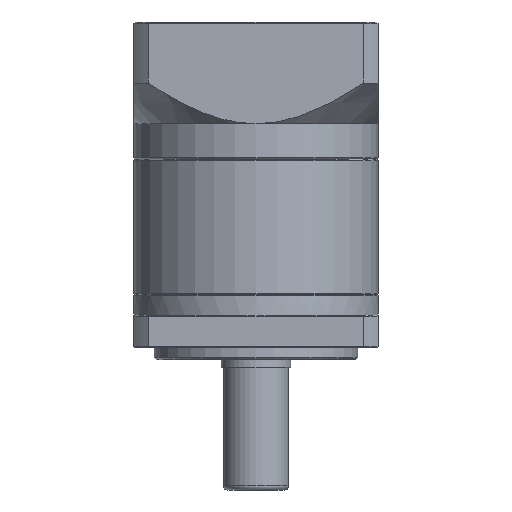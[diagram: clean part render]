
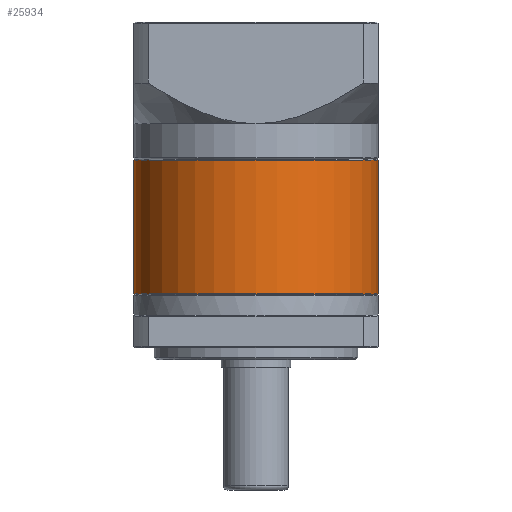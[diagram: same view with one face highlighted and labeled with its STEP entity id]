
A CAD part, front view. The second image highlights one B-rep face of the part: STEP entity #25934.
In plain terms, the highlighted cylindrical face has radius 30 mm (diameter 60 mm), a partial arc.
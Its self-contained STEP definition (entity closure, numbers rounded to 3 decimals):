
#2 = DIRECTION ( 'NONE',  ( 0., 0., -1. ) ) ;
#623 = CARTESIAN_POINT ( 'NONE',  ( -98.108, 29.245, -29.611 ) ) ;
#3851 = AXIS2_PLACEMENT_3D ( 'NONE', #96127, #52056, #7469 ) ;
#4734 = CARTESIAN_POINT ( 'NONE',  ( -98.108, 29.245, 3.439 ) ) ;
#7160 = CARTESIAN_POINT ( 'NONE',  ( -38.108, 29.245, 3.439 ) ) ;
#7469 = DIRECTION ( 'NONE',  ( 1., 0., 0. ) ) ;
#7640 = VECTOR ( 'NONE', #56745, 1000. ) ;
#10070 = DIRECTION ( 'NONE',  ( 0., 0., -1. ) ) ;
#18769 = ORIENTED_EDGE ( 'NONE', *, *, #95033, .T. ) ;
#21595 = LINE ( 'NONE', #7160, #78298 ) ;
#25934 = ADVANCED_FACE ( 'NONE', ( #96084 ), #60320, .T. ) ;
#28057 = DIRECTION ( 'NONE',  ( 0., 0., -1. ) ) ;
#30575 = ORIENTED_EDGE ( 'NONE', *, *, #93079, .F. ) ;
#32009 = CARTESIAN_POINT ( 'NONE',  ( -38.108, 29.245, -29.611 ) ) ;
#34231 = EDGE_LOOP ( 'NONE', ( #30575, #18769, #39742, #44459 ) ) ;
#35730 = AXIS2_PLACEMENT_3D ( 'NONE', #54659, #10070, #62117 ) ;
#39742 = ORIENTED_EDGE ( 'NONE', *, *, #94180, .T. ) ;
#42344 = CIRCLE ( 'NONE', #3851, 30. ) ;
#43362 = VERTEX_POINT ( 'NONE', #32009 ) ;
#43990 = VERTEX_POINT ( 'NONE', #623 ) ;
#44459 = ORIENTED_EDGE ( 'NONE', *, *, #95150, .T. ) ;
#46882 = VERTEX_POINT ( 'NONE', #58278 ) ;
#47400 = VERTEX_POINT ( 'NONE', #49031 ) ;
#49031 = CARTESIAN_POINT ( 'NONE',  ( -38.108, 29.245, 3.189 ) ) ;
#52056 = DIRECTION ( 'NONE',  ( 0., 0., 1. ) ) ;
#54659 = CARTESIAN_POINT ( 'NONE',  ( -68.108, 29.245, 3.189 ) ) ;
#56745 = DIRECTION ( 'NONE',  ( 0., 0., -1. ) ) ;
#57799 = DIRECTION ( 'NONE',  ( -1., 0., 0. ) ) ;
#58278 = CARTESIAN_POINT ( 'NONE',  ( -98.108, 29.245, 3.189 ) ) ;
#58511 = CIRCLE ( 'NONE', #35730, 30. ) ;
#60320 = CYLINDRICAL_SURFACE ( 'NONE', #86501, 30. ) ;
#62117 = DIRECTION ( 'NONE',  ( 1., 0., 0. ) ) ;
#64686 = LINE ( 'NONE', #4734, #7640 ) ;
#72324 = CARTESIAN_POINT ( 'NONE',  ( -68.108, 29.245, 3.439 ) ) ;
#78298 = VECTOR ( 'NONE', #2, 1000. ) ;
#86501 = AXIS2_PLACEMENT_3D ( 'NONE', #72324, #28057, #57799 ) ;
#93079 = EDGE_CURVE ( 'NONE', #47400, #43362, #21595, .T. ) ;
#94180 = EDGE_CURVE ( 'NONE', #46882, #43990, #64686, .T. ) ;
#95033 = EDGE_CURVE ( 'NONE', #47400, #46882, #58511, .T. ) ;
#95150 = EDGE_CURVE ( 'NONE', #43990, #43362, #42344, .T. ) ;
#96084 = FACE_OUTER_BOUND ( 'NONE', #34231, .T. ) ;
#96127 = CARTESIAN_POINT ( 'NONE',  ( -68.108, 29.245, -29.611 ) ) ;
